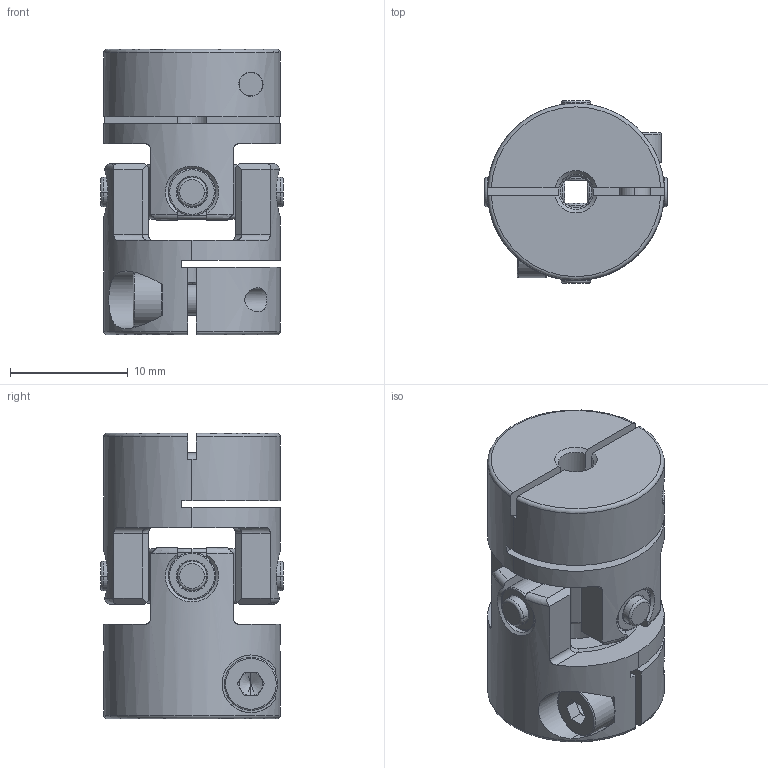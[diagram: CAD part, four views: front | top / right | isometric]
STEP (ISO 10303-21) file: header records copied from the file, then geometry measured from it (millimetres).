
FILE_DESCRIPTION (( 'STEP AP203' ), '1' );
FILE_NAME ('SCJB-15C-3X6.35_203.STEP', '2013-03-08T06:36:04', ( '' ), ( '' ), 'SwSTEP 2.0', 'SolidWorks 2012', '' );
FILE_SCHEMA (( 'CONFIG_CONTROL_DESIGN' ));
Length unit declared in the file: millimetre
Products named in the file (1): SCJB-15C-3X6.35_203
Bounding box: 15.5 x 15.5 x 24.2 mm (x, y, z)
Volume: 2990.6 mm3; surface area: 3124.6 mm2
Topology: 1 solids, 1 shells, 361 faces, 894 edges, 541 vertices
Faces by surface type: cylinder 118, plane 118, torus 76, cone 37, bspline 12
Entity records: 15628 total; most frequent: CARTESIAN_POINT 7127, DIRECTION 1789, ORIENTED_EDGE 1780, EDGE_CURVE 890, AXIS2_PLACEMENT_3D 743, VERTEX_POINT 541, CIRCLE 393, EDGE_LOOP 385
